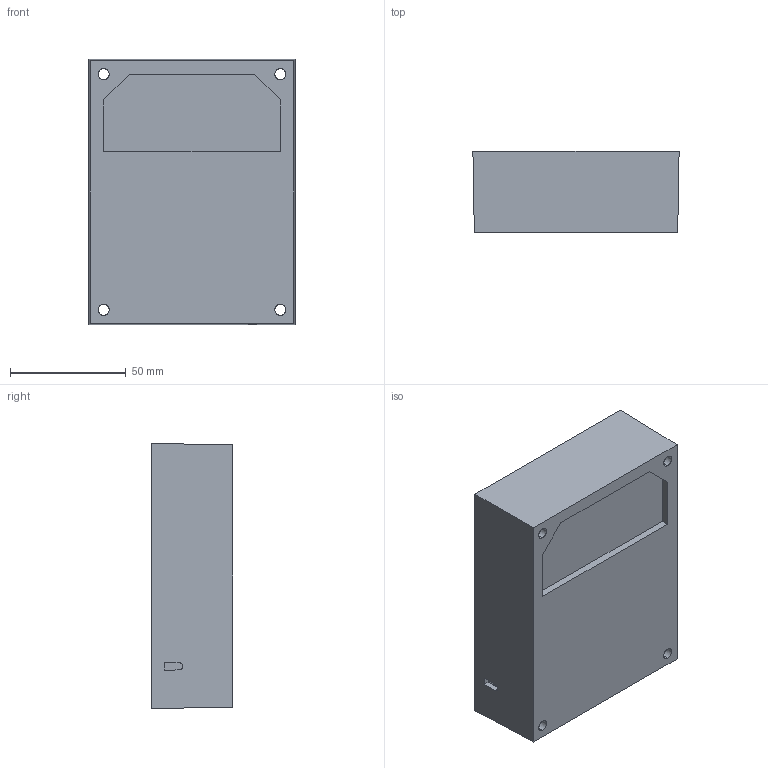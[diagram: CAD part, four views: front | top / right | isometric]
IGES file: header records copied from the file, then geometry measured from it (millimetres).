
Start section: SolidWorks IGES file using analytic representation for surfaces
Global section: file name: S:\Engineering Projects\VOICE #304 FILES\90295.IGS; native system: SolidWorks 2013; preprocessor: SolidWorks 2013; author: Davef; date: 140310.154757; units: inch
Bounding box: 88.9 x 34.92 x 114.3 mm (x, y, z)
Surface area: 71252.9 mm2 (no closed solid volume)
Topology: 0 solids, 0 shells, 335 faces, 3954 edges, 3954 vertices
Faces by surface type: bspline 314, revolution 21
